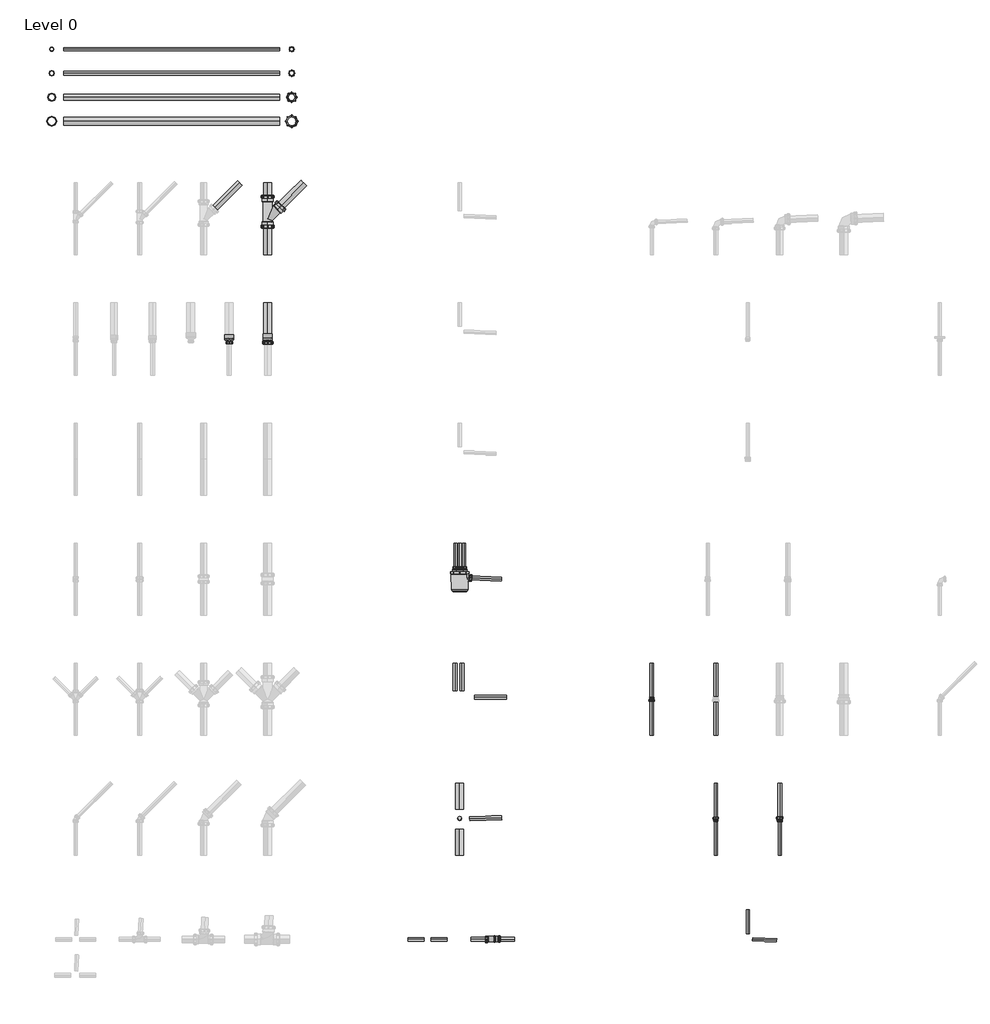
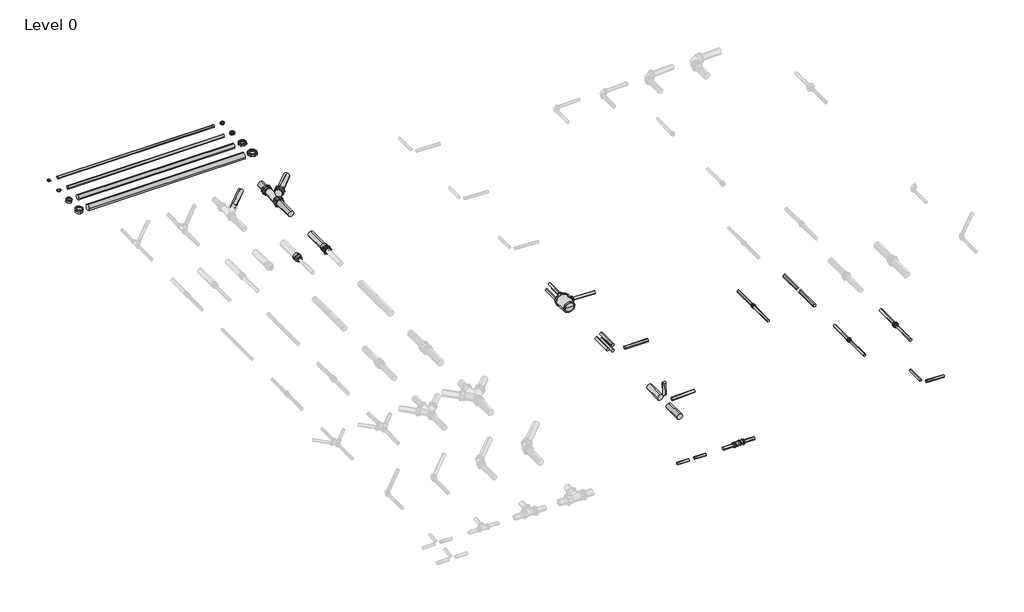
# One storey, part 3 of 5: 51 pipe fittings.
"""IFC4 building model written with IfcOpenShell, lengths in millimetres."""

from ifc_helpers import new_model, si_unit, point, frame, frame_2d, origin, place, context, project, spatial, circle_curve, trimmed, segment, composite_curve, outline, extrude, transform, mapped, element, save
from components import pipe_fitting_6652a40b, pipe_fitting_d1e91bc4, pipe_fitting_c0f0be52, pipe_fitting_eb49605e, pipe_fitting_6a20dd4a, w141_1_5inch_x_38mm_2e8cb1b8, w142_2inch_x_51mm_82494a64, w221_1_5inch_38mm_a653aa2d, w222_2inch_51mm_2c6371f4, w223_3inch_76mm_ab987528, w224_4inch_102mm_8a59da76, w231_1_5inch_38mm_eb1158d3, w232_2inch_51mm_67d13c43, w233_3inch_76mm_30b5535d, w234_4inch_102mm_b929236d, w374_4inch_102mm_46581d94, w374_4inch_102mm_cdc88c89, w451_1_5inch_38mm_e0fa0fe0, w802_2inch_51mm_31d1ba8a, w802_2inch_51mm_177d126d

model = new_model("IFC4")

# Units and contexts
model_context = context("Model", 3, world=origin())
ifc_project = project(units=[si_unit("LENGTHUNIT", "METRE", prefix="MILLI")], contexts=[model_context])

# Site, building, storey
site = spatial("IfcSite", under=ifc_project)
building = spatial("IfcBuilding", under=site)
storey = spatial("IfcBuildingStorey", under=building, Name="Level 0", Elevation=0.0)

# Pipe fittings
placement = place(None, origin())
element("IfcPipeFitting", 1, ObjectType="Vulcathene Mechanical Pipe", at=placement, inside=storey, context=model_context, shape_type="SweptSolid", body=[
    extrude(outline(composite_curve([segment(trimmed(circle_curve(frame_2d((13784.6035033, 0.0)), 20.0), [point((13764.6035033, 0.0))], [point((13784.6035033, 20.0))], False, "CARTESIAN"), True, "CONTINUOUS"), segment(trimmed(circle_curve(frame_2d((13784.6035033, 0.0)), 20.0), [point((13784.6035033, 20.0))], [point((13804.6035033, 0.0))], False, "CARTESIAN"), True, "CONTINUOUS"), segment(trimmed(circle_curve(frame_2d((13784.6035033, 0.0)), 20.0), [point((13804.6035033, 0.0))], [point((13784.6035033, -20.0))], False, "CARTESIAN"), True, "CONTINUOUS"), segment(trimmed(circle_curve(frame_2d((13784.6035033, 0.0)), 20.0), [point((13784.6035033, -20.0))], [point((13764.6035033, 0.0))], False, "CARTESIAN"), True, "CONTINUOUS")], self_intersect=False)), frame((-19807.9793828, 0.0, 0.0), z_axis=(1.0, 0.0, 0.0), x_axis=(0.0, 1.0, 0.0)), (0.0, 0.0, 1.0), 2700.0),
])
element("IfcPipeFitting", 2, ObjectType="Vulcathene Mechanical Pipe", at=placement, inside=storey, context=model_context, shape_type="SweptSolid", body=[
    extrude(outline(composite_curve([segment(trimmed(circle_curve(frame_2d((13484.6035033, 0.0)), 25.0), [point((13459.6035033, 0.0))], [point((13484.6035033, 25.0))], False, "CARTESIAN"), True, "CONTINUOUS"), segment(trimmed(circle_curve(frame_2d((13484.6035033, 0.0)), 25.0), [point((13484.6035033, 25.0))], [point((13509.6035033, 0.0))], False, "CARTESIAN"), True, "CONTINUOUS"), segment(trimmed(circle_curve(frame_2d((13484.6035033, 0.0)), 25.0), [point((13509.6035033, 0.0))], [point((13484.6035033, -25.0))], False, "CARTESIAN"), True, "CONTINUOUS"), segment(trimmed(circle_curve(frame_2d((13484.6035033, 0.0)), 25.0), [point((13484.6035033, -25.0))], [point((13459.6035033, 0.0))], False, "CARTESIAN"), True, "CONTINUOUS")], self_intersect=False)), frame((-19807.9793828, 0.0, 0.0), z_axis=(1.0, 0.0, 0.0), x_axis=(0.0, 1.0, 0.0)), (0.0, 0.0, 1.0), 2700.0),
])
element("IfcPipeFitting", 3, ObjectType="Vulcathene Mechanical Pipe", at=placement, inside=storey, context=model_context, shape_type="SweptSolid", body=[
    extrude(outline(composite_curve([segment(trimmed(circle_curve(frame_2d((13184.6035033, 0.0)), 40.0), [point((13144.6035033, 0.0))], [point((13184.6035033, 40.0))], False, "CARTESIAN"), True, "CONTINUOUS"), segment(trimmed(circle_curve(frame_2d((13184.6035033, 0.0)), 40.0), [point((13184.6035033, 40.0))], [point((13224.6035033, 0.0))], False, "CARTESIAN"), True, "CONTINUOUS"), segment(trimmed(circle_curve(frame_2d((13184.6035033, 0.0)), 40.0), [point((13224.6035033, 0.0))], [point((13184.6035033, -40.0))], False, "CARTESIAN"), True, "CONTINUOUS"), segment(trimmed(circle_curve(frame_2d((13184.6035033, 0.0)), 40.0), [point((13184.6035033, -40.0))], [point((13144.6035033, 0.0))], False, "CARTESIAN"), True, "CONTINUOUS")], self_intersect=False)), frame((-19807.9793828, 0.0, 0.0), z_axis=(1.0, 0.0, 0.0), x_axis=(0.0, 1.0, 0.0)), (0.0, 0.0, 1.0), 2700.0),
])
element("IfcPipeFitting", 4, ObjectType="Vulcathene Mechanical Pipe", at=placement, inside=storey, context=model_context, shape_type="SweptSolid", body=[
    extrude(outline(composite_curve([segment(trimmed(circle_curve(frame_2d((12884.6035033, 0.0)), 50.0), [point((12834.6035033, 0.0))], [point((12884.6035033, 50.0))], False, "CARTESIAN"), True, "CONTINUOUS"), segment(trimmed(circle_curve(frame_2d((12884.6035033, 0.0)), 50.0), [point((12884.6035033, 50.0))], [point((12934.6035033, 0.0))], False, "CARTESIAN"), True, "CONTINUOUS"), segment(trimmed(circle_curve(frame_2d((12884.6035033, 0.0)), 50.0), [point((12934.6035033, 0.0))], [point((12884.6035033, -50.0))], False, "CARTESIAN"), True, "CONTINUOUS"), segment(trimmed(circle_curve(frame_2d((12884.6035033, 0.0)), 50.0), [point((12884.6035033, -50.0))], [point((12834.6035033, 0.0))], False, "CARTESIAN"), True, "CONTINUOUS")], self_intersect=False)), frame((-19807.9793828, 0.0, 0.0), z_axis=(1.0, 0.0, 0.0), x_axis=(0.0, 1.0, 0.0)), (0.0, 0.0, 1.0), 2700.0),
])
element("IfcPipeFitting", 5, ObjectType="Vulcathene Mechanical Pipe", at=placement, inside=storey, context=model_context, shape_type="SweptSolid", body=[
    extrude(outline(composite_curve([segment(trimmed(circle_curve(frame_2d((0.0, -17257.9793828)), 50.0), [point((0.0, -17307.9793828))], [point((-50.0, -17257.9793828))], False, "CARTESIAN"), True, "CONTINUOUS"), segment(trimmed(circle_curve(frame_2d((0.0, -17257.9793828)), 50.0), [point((-50.0, -17257.9793828))], [point((0.0, -17207.9793828))], False, "CARTESIAN"), True, "CONTINUOUS"), segment(trimmed(circle_curve(frame_2d((0.0, -17257.9793828)), 50.0), [point((0.0, -17207.9793828))], [point((50.0, -17257.9793828))], False, "CARTESIAN"), True, "CONTINUOUS"), segment(trimmed(circle_curve(frame_2d((0.0, -17257.9793828)), 50.0), [point((50.0, -17257.9793828))], [point((0.0, -17307.9793828))], False, "CARTESIAN"), True, "CONTINUOUS")], self_intersect=False)), frame((0.0, 11214.6035033, 0.0), z_axis=(0.0, 1.0, 0.0), x_axis=(0.0, 0.0, 1.0)), (0.0, 0.0, 1.0), 370.5),
])
element("IfcPipeFitting", 6, ObjectType="Vulcathene Mechanical Pipe", at=placement, inside=storey, context=model_context, shape_type="SweptSolid", body=[
    extrude(outline(composite_curve([segment(trimmed(circle_curve(frame_2d((0.0, 40.0)), 40.0), [point((40.0, 40.0))], [point((0.0, 0.0))], False, "CARTESIAN"), True, "CONTINUOUS"), segment(trimmed(circle_curve(frame_2d((0.0, 40.0)), 40.0), [point((0.0, 0.0))], [point((-40.0, 40.0))], False, "CARTESIAN"), True, "CONTINUOUS"), segment(trimmed(circle_curve(frame_2d((0.0, 40.0)), 40.0), [point((-40.0, 40.0))], [point((0.0, 80.0))], False, "CARTESIAN"), True, "CONTINUOUS"), segment(trimmed(circle_curve(frame_2d((0.0, 40.0)), 40.0), [point((0.0, 80.0))], [point((40.0, 40.0))], False, "CARTESIAN"), True, "CONTINUOUS")], self_intersect=False)), frame((-17939.538997, 11783.0438891, 40.0), z_axis=(0.7071067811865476, 0.7071067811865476, 0.0), x_axis=(0.7071067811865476, -0.7071067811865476, 0.0)), (0.0, 0.0, 1.0), 468.8961031),
])
element("IfcPipeFitting", 7, ObjectType="Vulcathene Mechanical Pipe", at=placement, inside=storey, context=model_context, shape_type="SweptSolid", body=[
    extrude(outline(composite_curve([segment(trimmed(circle_curve(frame_2d((0.0, 50.0)), 50.0), [point((50.0, 50.0))], [point((0.0, 0.0))], False, "CARTESIAN"), True, "CONTINUOUS"), segment(trimmed(circle_curve(frame_2d((0.0, 50.0)), 50.0), [point((0.0, 0.0))], [point((-50.0, 50.0))], False, "CARTESIAN"), True, "CONTINUOUS"), segment(trimmed(circle_curve(frame_2d((0.0, 50.0)), 50.0), [point((-50.0, 50.0))], [point((0.0, 100.0))], False, "CARTESIAN"), True, "CONTINUOUS"), segment(trimmed(circle_curve(frame_2d((0.0, 50.0)), 50.0), [point((0.0, 100.0))], [point((50.0, 50.0))], False, "CARTESIAN"), True, "CONTINUOUS")], self_intersect=False)), frame((-17109.9112229, 11812.6716632, 50.0), z_axis=(0.707106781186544, 0.7071067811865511, 0.0), x_axis=(0.7071067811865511, -0.707106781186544, 0.0)), (0.0, 0.0, 1.0), 426.9961031),
])
element("IfcPipeFitting", 8, ObjectType="Vulcathene Mechanical Pipe", at=placement, inside=storey, context=model_context, shape_type="SweptSolid", body=[
    extrude(outline(composite_curve([segment(trimmed(circle_curve(frame_2d((0.0, -17257.9793828)), 50.0), [point((0.0, -17307.9793828))], [point((-50.0, -17257.9793828))], False, "CARTESIAN"), True, "CONTINUOUS"), segment(trimmed(circle_curve(frame_2d((0.0, -17257.9793828)), 50.0), [point((-50.0, -17257.9793828))], [point((0.0, -17207.9793828))], False, "CARTESIAN"), True, "CONTINUOUS"), segment(trimmed(circle_curve(frame_2d((0.0, -17257.9793828)), 50.0), [point((0.0, -17207.9793828))], [point((50.0, -17257.9793828))], False, "CARTESIAN"), True, "CONTINUOUS"), segment(trimmed(circle_curve(frame_2d((0.0, -17257.9793828)), 50.0), [point((50.0, -17257.9793828))], [point((0.0, -17307.9793828))], False, "CARTESIAN"), True, "CONTINUOUS")], self_intersect=False)), frame((0.0, 11924.5035033, 0.0), z_axis=(0.0, 1.0, 0.0), x_axis=(0.0, 0.0, 1.0)), (0.0, 0.0, 1.0), 190.1),
])
element("IfcPipeFitting", 9, ObjectType="Vulcathene Mechanical Pipe", at=placement, inside=storey, context=model_context, shape_type="SweptSolid", body=[
    extrude(outline(composite_curve([segment(trimmed(circle_curve(frame_2d((0.0, -17257.9793828)), 50.0), [point((0.0, -17207.9793828))], [point((50.0, -17257.9793828))], False, "CARTESIAN"), True, "CONTINUOUS"), segment(trimmed(circle_curve(frame_2d((0.0, -17257.9793828)), 50.0), [point((50.0, -17257.9793828))], [point((0.0, -17307.9793828))], False, "CARTESIAN"), True, "CONTINUOUS"), segment(trimmed(circle_curve(frame_2d((0.0, -17257.9793828)), 50.0), [point((0.0, -17307.9793828))], [point((-50.0, -17257.9793828))], False, "CARTESIAN"), True, "CONTINUOUS"), segment(trimmed(circle_curve(frame_2d((0.0, -17257.9793828)), 50.0), [point((-50.0, -17257.9793828))], [point((0.0, -17207.9793828))], False, "CARTESIAN"), True, "CONTINUOUS")], self_intersect=False)), frame((0.0, 10158.4535033, 0.0), z_axis=(0.0, 1.0, 0.0), x_axis=(0.0, 0.0, 1.0)), (0.0, 0.0, 1.0), 456.15),
])
element("IfcPipeFitting", 10, ObjectType="Vulcathene Mechanical Pipe", at=placement, inside=storey, context=model_context, shape_type="SweptSolid", body=[
    extrude(outline(composite_curve([segment(trimmed(circle_curve(frame_2d((1e-07, 25.0)), 25.0), [point((-24.9999423, 24.9463195))], [point((-0.0536805, 49.9999424))], False, "CARTESIAN"), True, "CONTINUOUS"), segment(trimmed(circle_curve(frame_2d((1e-07, 25.0)), 25.0), [point((-0.0536805, 49.9999424))], [point((24.9999424, 25.0536806))], False, "CARTESIAN"), True, "CONTINUOUS"), segment(trimmed(circle_curve(frame_2d((1e-07, 25.0)), 25.0), [point((24.9999424, 25.0536806))], [point((0.0536806, 5.77e-05))], False, "CARTESIAN"), True, "CONTINUOUS"), segment(trimmed(circle_curve(frame_2d((1e-07, 25.0)), 25.0), [point((0.0536806, 5.77e-05))], [point((-24.9999423, 24.9463195))], False, "CARTESIAN"), True, "CONTINUOUS")], self_intersect=False)), frame((-14737.6431941, 7182.0252559, -25.0374423), z_axis=(0.9990482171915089, -0.043619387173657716, 9.374999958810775e-05), x_axis=(0.04361948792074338, 0.9990459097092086, -0.002147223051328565)), (0.0, 0.0, 1.0), 400.0000018),
])
element("IfcPipeFitting", 11, ObjectType="Vulcathene Mechanical Pipe", at=placement, inside=storey, context=model_context, shape_type="SweptSolid", body=[
    extrude(outline(composite_curve([segment(trimmed(circle_curve(frame_2d((-30.2, -14910.2223653)), 20.0), [point((-30.2, -14890.2223653))], [point((-10.2, -14910.2223653))], False, "CARTESIAN"), True, "CONTINUOUS"), segment(trimmed(circle_curve(frame_2d((-30.2, -14910.2223653)), 20.0), [point((-10.2, -14910.2223653))], [point((-30.2, -14930.2223653))], False, "CARTESIAN"), True, "CONTINUOUS"), segment(trimmed(circle_curve(frame_2d((-30.2, -14910.2223653)), 20.0), [point((-30.2, -14930.2223653))], [point((-50.2, -14910.2223653))], False, "CARTESIAN"), True, "CONTINUOUS"), segment(trimmed(circle_curve(frame_2d((-30.2, -14910.2223653)), 20.0), [point((-50.2, -14910.2223653))], [point((-30.2, -14890.2223653))], False, "CARTESIAN"), True, "CONTINUOUS")], self_intersect=False)), frame((0.0, 7289.9325163, 0.0), z_axis=(0.0, 1.0, 0.0), x_axis=(0.0, 0.0, 1.0)), (0.0, 0.0, 1.0), 324.7096599),
])
element("IfcPipeFitting", 12, ObjectType="Vulcathene Mechanical Pipe", at=placement, inside=storey, context=model_context, shape_type="SweptSolid", body=[
    extrude(outline(composite_curve([segment(trimmed(circle_curve(frame_2d((0.0, 20.0)), 20.0), [point((0.0, 40.0))], [point((20.0, 20.0))], False, "CARTESIAN"), True, "CONTINUOUS"), segment(trimmed(circle_curve(frame_2d((0.0, 20.0)), 20.0), [point((20.0, 20.0))], [point((0.0, 0.0))], False, "CARTESIAN"), True, "CONTINUOUS"), segment(trimmed(circle_curve(frame_2d((0.0, 20.0)), 20.0), [point((0.0, 0.0))], [point((-20.0, 19.9999999))], False, "CARTESIAN"), True, "CONTINUOUS"), segment(trimmed(circle_curve(frame_2d((0.0, 20.0)), 20.0), [point((-20.0, 19.9999999))], [point((0.0, 40.0))], False, "CARTESIAN"), True, "CONTINUOUS")], self_intersect=False)), frame((-14877.9793828, 7289.9318772, 60.2875), z_axis=(-3.195355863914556e-05, 0.9999999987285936, 3.901003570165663e-05), x_axis=(1.2465122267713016e-09, -3.9010035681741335e-05, 0.9999999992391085)), (0.0, 0.0, 1.0), 324.7079906),
])
element("IfcPipeFitting", 13, ObjectType="Vulcathene Mechanical Pipe", at=placement, inside=storey, context=model_context, shape_type="SweptSolid", body=[
    extrude(outline(composite_curve([segment(trimmed(circle_curve(frame_2d((-30.2, -14805.7364004)), 20.0), [point((-30.2, -14785.7364004))], [point((-10.2, -14805.7364004))], False, "CARTESIAN"), True, "CONTINUOUS"), segment(trimmed(circle_curve(frame_2d((-30.2, -14805.7364004)), 20.0), [point((-10.2, -14805.7364004))], [point((-30.2, -14825.7364004))], False, "CARTESIAN"), True, "CONTINUOUS"), segment(trimmed(circle_curve(frame_2d((-30.2, -14805.7364004)), 20.0), [point((-30.2, -14825.7364004))], [point((-50.2, -14805.7364004))], False, "CARTESIAN"), True, "CONTINUOUS"), segment(trimmed(circle_curve(frame_2d((-30.2, -14805.7364004)), 20.0), [point((-50.2, -14805.7364004))], [point((-30.2, -14785.7364004))], False, "CARTESIAN"), True, "CONTINUOUS")], self_intersect=False)), frame((0.0, 7289.9325163, 0.0), z_axis=(0.0, 1.0, 0.0), x_axis=(0.0, 0.0, 1.0)), (0.0, 0.0, 1.0), 324.7096599),
])
element("IfcPipeFitting", 14, ObjectType="Vulcathene Mechanical Pipe", at=placement, inside=storey, context=model_context, shape_type="SweptSolid", body=[
    extrude(outline(composite_curve([segment(trimmed(circle_curve(frame_2d((0.0, -14918.3042383)), 25.0), [point((0.0, -14893.3042383))], [point((25.0, -14918.3042383))], False, "CARTESIAN"), True, "CONTINUOUS"), segment(trimmed(circle_curve(frame_2d((0.0, -14918.3042383)), 25.0), [point((25.0, -14918.3042383))], [point((0.0, -14943.3042383))], False, "CARTESIAN"), True, "CONTINUOUS"), segment(trimmed(circle_curve(frame_2d((0.0, -14918.3042383)), 25.0), [point((0.0, -14943.3042383))], [point((-25.0, -14918.3042383))], False, "CARTESIAN"), True, "CONTINUOUS"), segment(trimmed(circle_curve(frame_2d((0.0, -14918.3042383)), 25.0), [point((-25.0, -14918.3042383))], [point((0.0, -14893.3042383))], False, "CARTESIAN"), True, "CONTINUOUS")], self_intersect=False)), frame((0.0, 5769.877371, 0.0), z_axis=(0.0, 1.0, 0.0), x_axis=(0.0, 0.0, 1.0)), (0.0, 0.0, 1.0), 344.7261322),
])
element("IfcPipeFitting", 15, ObjectType="Vulcathene Mechanical Pipe", at=placement, inside=storey, context=model_context, shape_type="SweptSolid", body=[
    extrude(outline(composite_curve([segment(trimmed(circle_curve(frame_2d((52.0375, -14827.7025971)), 25.0), [point((52.0375, -14802.7025971))], [point((77.0375, -14827.7025971))], False, "CARTESIAN"), True, "CONTINUOUS"), segment(trimmed(circle_curve(frame_2d((52.0375, -14827.7025971)), 25.0), [point((77.0375, -14827.7025971))], [point((52.0375, -14852.7025971))], False, "CARTESIAN"), True, "CONTINUOUS"), segment(trimmed(circle_curve(frame_2d((52.0375, -14827.7025971)), 25.0), [point((52.0375, -14852.7025971))], [point((27.0375, -14827.7025971))], False, "CARTESIAN"), True, "CONTINUOUS"), segment(trimmed(circle_curve(frame_2d((52.0375, -14827.7025971)), 25.0), [point((27.0375, -14827.7025971))], [point((52.0375, -14802.7025971))], False, "CARTESIAN"), True, "CONTINUOUS")], self_intersect=False)), frame((0.0, 5769.877371, 0.0), z_axis=(0.0, 1.0, 0.0), x_axis=(0.0, 0.0, 1.0)), (0.0, 0.0, 1.0), 344.7261322),
])
element("IfcPipeFitting", 16, ObjectType="Vulcathene Mechanical Pipe", at=placement, inside=storey, context=model_context, shape_type="SweptSolid", body=[
    extrude(outline(composite_curve([segment(trimmed(circle_curve(frame_2d((0.0, -25.0)), 25.0), [point((0.0, -50.0))], [point((-25.0000001, -25.0))], False, "CARTESIAN"), True, "CONTINUOUS"), segment(trimmed(circle_curve(frame_2d((0.0, -25.0)), 25.0), [point((-25.0000001, -25.0))], [point((0.0, 0.0))], False, "CARTESIAN"), True, "CONTINUOUS"), segment(trimmed(circle_curve(frame_2d((0.0, -25.0)), 25.0), [point((0.0, 0.0))], [point((25.0, -25.0))], False, "CARTESIAN"), True, "CONTINUOUS"), segment(trimmed(circle_curve(frame_2d((0.0, -25.0)), 25.0), [point((25.0, -25.0))], [point((0.0, -50.0))], False, "CARTESIAN"), True, "CONTINUOUS")], self_intersect=False)), frame((-14852.7025971, 6114.5996207, -52.0632255), z_axis=(0.0, -0.9999999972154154, 7.46268656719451e-05), x_axis=(0.0, 7.46268656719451e-05, 0.9999999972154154)), (0.0, 0.0, 1.0), 344.7222507),
])
element("IfcPipeFitting", 17, ObjectType="Vulcathene Mechanical Pipe", at=placement, inside=storey, context=model_context, shape_type="SweptSolid", body=[
    extrude(outline(composite_curve([segment(trimmed(circle_curve(frame_2d((0.0, -14857.9793828)), 50.0), [point((0.0, -14807.9793828))], [point((50.0, -14857.9793828))], False, "CARTESIAN"), True, "CONTINUOUS"), segment(trimmed(circle_curve(frame_2d((0.0, -14857.9793828)), 50.0), [point((50.0, -14857.9793828))], [point((0.0, -14907.9793828))], False, "CARTESIAN"), True, "CONTINUOUS"), segment(trimmed(circle_curve(frame_2d((0.0, -14857.9793828)), 50.0), [point((0.0, -14907.9793828))], [point((-50.0, -14857.9793828))], False, "CARTESIAN"), True, "CONTINUOUS"), segment(trimmed(circle_curve(frame_2d((0.0, -14857.9793828)), 50.0), [point((-50.0, -14857.9793828))], [point((0.0, -14807.9793828))], False, "CARTESIAN"), True, "CONTINUOUS")], self_intersect=False)), frame((0.0, 4289.602162, 0.0), z_axis=(0.0, 1.0, 0.0), x_axis=(0.0, 0.0, 1.0)), (0.0, 0.0, 1.0), 325.0013412),
])
element("IfcPipeFitting", 18, ObjectType="Vulcathene Mechanical Pipe", at=placement, inside=storey, context=model_context, shape_type="SweptSolid", body=[
    extrude(outline(composite_curve([segment(trimmed(circle_curve(frame_2d((0.0, 25.0)), 25.0), [point((25.0, 25.0))], [point((0.0, 0.0))], False, "CARTESIAN"), True, "CONTINUOUS"), segment(trimmed(circle_curve(frame_2d((0.0, 25.0)), 25.0), [point((0.0, 0.0))], [point((-25.0, 25.0))], False, "CARTESIAN"), True, "CONTINUOUS"), segment(trimmed(circle_curve(frame_2d((0.0, 25.0)), 25.0), [point((-25.0, 25.0))], [point((0.0, 50.0))], False, "CARTESIAN"), True, "CONTINUOUS"), segment(trimmed(circle_curve(frame_2d((0.0, 25.0)), 25.0), [point((0.0, 50.0))], [point((25.0, 25.0))], False, "CARTESIAN"), True, "CONTINUOUS")], self_intersect=False)), frame((-14733.2478748, 4170.0480573, 24.969281), z_axis=(0.9990482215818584, 0.0436193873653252, 0.0), x_axis=(0.0436193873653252, -0.9990482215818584, 0.0)), (0.0, 0.0, 1.0), 400.0),
])
element("IfcPipeFitting", 19, ObjectType="Vulcathene Mechanical Pipe", at=placement, inside=storey, context=model_context, shape_type="SweptSolid", body=[
    extrude(outline(composite_curve([segment(trimmed(circle_curve(frame_2d((0.0, -14857.9793828)), 50.0), [point((0.0, -14907.9793828))], [point((-50.0, -14857.9793828))], False, "CARTESIAN"), True, "CONTINUOUS"), segment(trimmed(circle_curve(frame_2d((0.0, -14857.9793828)), 50.0), [point((-50.0, -14857.9793828))], [point((0.0, -14807.9793828))], False, "CARTESIAN"), True, "CONTINUOUS"), segment(trimmed(circle_curve(frame_2d((0.0, -14857.9793828)), 50.0), [point((0.0, -14807.9793828))], [point((50.0, -14857.9793828))], False, "CARTESIAN"), True, "CONTINUOUS"), segment(trimmed(circle_curve(frame_2d((0.0, -14857.9793828)), 50.0), [point((50.0, -14857.9793828))], [point((0.0, -14907.9793828))], False, "CARTESIAN"), True, "CONTINUOUS")], self_intersect=False)), frame((0.0, 3714.6035033, 0.0), z_axis=(0.0, 1.0, 0.0), x_axis=(0.0, 0.0, 1.0)), (0.0, 0.0, 1.0), 324.9986588),
])
element("IfcPipeFitting", 20, ObjectType="Vulcathene Mechanical Pipe", at=placement, inside=storey, context=model_context, shape_type="SweptSolid", body=[
    extrude(outline(composite_curve([segment(trimmed(circle_curve(frame_2d((5687.8785033, 0.0)), 25.0), [point((5662.8785033, 0.0))], [point((5687.8785033, 25.0))], False, "CARTESIAN"), True, "CONTINUOUS"), segment(trimmed(circle_curve(frame_2d((5687.8785033, 0.0)), 25.0), [point((5687.8785033, 25.0))], [point((5712.8785033, 0.0))], False, "CARTESIAN"), True, "CONTINUOUS"), segment(trimmed(circle_curve(frame_2d((5687.8785033, 0.0)), 25.0), [point((5712.8785033, 0.0))], [point((5687.8785033, -25.0))], False, "CARTESIAN"), True, "CONTINUOUS"), segment(trimmed(circle_curve(frame_2d((5687.8785033, 0.0)), 25.0), [point((5687.8785033, -25.0))], [point((5662.8785033, 0.0))], False, "CARTESIAN"), True, "CONTINUOUS")], self_intersect=False)), frame((-14673.8363828, 0.0, 0.0), z_axis=(1.0, 0.0, 0.0), x_axis=(0.0, 1.0, 0.0)), (0.0, 0.0, 1.0), 400.0),
])
element("IfcPipeFitting", 21, ObjectType="Vulcathene Mechanical Pipe", at=placement, inside=storey, context=model_context, shape_type="SweptSolid", body=[
    extrude(outline(composite_curve([segment(trimmed(circle_curve(frame_2d((0.0, -12457.9793828)), 20.0), [point((0.0, -12477.9793828))], [point((-20.0, -12457.9793828))], False, "CARTESIAN"), True, "CONTINUOUS"), segment(trimmed(circle_curve(frame_2d((0.0, -12457.9793828)), 20.0), [point((-20.0, -12457.9793828))], [point((0.0, -12437.9793828))], False, "CARTESIAN"), True, "CONTINUOUS"), segment(trimmed(circle_curve(frame_2d((0.0, -12457.9793828)), 20.0), [point((0.0, -12437.9793828))], [point((20.0, -12457.9793828))], False, "CARTESIAN"), True, "CONTINUOUS"), segment(trimmed(circle_curve(frame_2d((0.0, -12457.9793828)), 20.0), [point((20.0, -12457.9793828))], [point((0.0, -12477.9793828))], False, "CARTESIAN"), True, "CONTINUOUS")], self_intersect=False)), frame((0.0, 5214.6035033, 0.0), z_axis=(0.0, 1.0, 0.0), x_axis=(0.0, 0.0, 1.0)), (0.0, 0.0, 1.0), 453.85),
])
element("IfcPipeFitting", 22, ObjectType="Vulcathene Mechanical Pipe", at=placement, inside=storey, context=model_context, shape_type="SweptSolid", body=[
    extrude(outline(composite_curve([segment(trimmed(circle_curve(frame_2d((0.0, -11657.9793828)), 25.0), [point((0.0, -11682.9793828))], [point((-25.0, -11657.9793828))], False, "CARTESIAN"), True, "CONTINUOUS"), segment(trimmed(circle_curve(frame_2d((0.0, -11657.9793828)), 25.0), [point((-25.0, -11657.9793828))], [point((0.0, -11632.9793828))], False, "CARTESIAN"), True, "CONTINUOUS"), segment(trimmed(circle_curve(frame_2d((0.0, -11657.9793828)), 25.0), [point((0.0, -11632.9793828))], [point((25.0, -11657.9793828))], False, "CARTESIAN"), True, "CONTINUOUS"), segment(trimmed(circle_curve(frame_2d((0.0, -11657.9793828)), 25.0), [point((25.0, -11657.9793828))], [point((0.0, -11682.9793828))], False, "CARTESIAN"), True, "CONTINUOUS")], self_intersect=False)), frame((0.0, 5214.6035033, 0.0), z_axis=(0.0, 1.0, 0.0), x_axis=(0.0, 0.0, 1.0)), (0.0, 0.0, 1.0), 451.0),
])
element("IfcPipeFitting", 23, ObjectType="Vulcathene Mechanical Pipe", at=placement, inside=storey, context=model_context, shape_type="SweptSolid", body=[
    extrude(outline(composite_curve([segment(trimmed(circle_curve(frame_2d((0.0, -12457.9793828)), 20.0), [point((0.0, -12477.9793828))], [point((-20.0, -12457.9793828))], False, "CARTESIAN"), True, "CONTINUOUS"), segment(trimmed(circle_curve(frame_2d((0.0, -12457.9793828)), 20.0), [point((-20.0, -12457.9793828))], [point((0.0, -12437.9793828))], False, "CARTESIAN"), True, "CONTINUOUS"), segment(trimmed(circle_curve(frame_2d((0.0, -12457.9793828)), 20.0), [point((0.0, -12437.9793828))], [point((20.0, -12457.9793828))], False, "CARTESIAN"), True, "CONTINUOUS"), segment(trimmed(circle_curve(frame_2d((0.0, -12457.9793828)), 20.0), [point((20.0, -12457.9793828))], [point((0.0, -12477.9793828))], False, "CARTESIAN"), True, "CONTINUOUS")], self_intersect=False)), frame((0.0, 5691.9535033, 0.0), z_axis=(0.0, 1.0, 0.0), x_axis=(0.0, 0.0, 1.0)), (0.0, 0.0, 1.0), 422.65),
])
element("IfcPipeFitting", 24, ObjectType="Vulcathene Mechanical Pipe", at=placement, inside=storey, context=model_context, shape_type="SweptSolid", body=[
    extrude(outline(composite_curve([segment(trimmed(circle_curve(frame_2d((0.0, -11657.9793828)), 25.0), [point((0.0, -11682.9793828))], [point((-25.0, -11657.9793828))], False, "CARTESIAN"), True, "CONTINUOUS"), segment(trimmed(circle_curve(frame_2d((0.0, -11657.9793828)), 25.0), [point((-25.0, -11657.9793828))], [point((0.0, -11632.9793828))], False, "CARTESIAN"), True, "CONTINUOUS"), segment(trimmed(circle_curve(frame_2d((0.0, -11657.9793828)), 25.0), [point((0.0, -11632.9793828))], [point((25.0, -11657.9793828))], False, "CARTESIAN"), True, "CONTINUOUS"), segment(trimmed(circle_curve(frame_2d((0.0, -11657.9793828)), 25.0), [point((25.0, -11657.9793828))], [point((0.0, -11682.9793828))], False, "CARTESIAN"), True, "CONTINUOUS")], self_intersect=False)), frame((0.0, 5695.1035033, 0.0), z_axis=(0.0, 1.0, 0.0), x_axis=(0.0, 0.0, 1.0)), (0.0, 0.0, 1.0), 419.5),
])
element("IfcPipeFitting", 25, ObjectType="Vulcathene Mechanical Pipe", at=placement, inside=storey, context=model_context, shape_type="SweptSolid", body=[
    extrude(outline(composite_curve([segment(trimmed(circle_curve(frame_2d((0.0, 25.0)), 25.0), [point((25.0, 25.0))], [point((0.0, 0.0))], False, "CARTESIAN"), True, "CONTINUOUS"), segment(trimmed(circle_curve(frame_2d((0.0, 25.0)), 25.0), [point((0.0, 0.0))], [point((-25.0, 25.0))], False, "CARTESIAN"), True, "CONTINUOUS"), segment(trimmed(circle_curve(frame_2d((0.0, 25.0)), 25.0), [point((-25.0, 25.0))], [point((0.0, 49.9999999))], False, "CARTESIAN"), True, "CONTINUOUS"), segment(trimmed(circle_curve(frame_2d((0.0, 25.0)), 25.0), [point((0.0, 49.9999999))], [point((25.0, 25.0))], False, "CARTESIAN"), True, "CONTINUOUS")], self_intersect=False)), frame((-14858.0101019, 4145.0718518, 125.8219927), z_axis=(0.0, 0.04361938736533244, 0.9990482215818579), x_axis=(1.0, 0.0, 0.0)), (0.0, 0.0, 1.0), 220.0),
])
element("IfcPipeFitting", 26, ObjectType="Vulcathene Mechanical Pipe", at=placement, inside=storey, context=model_context, shape_type="SweptSolid", body=[
    extrude(outline(composite_curve([segment(trimmed(circle_curve(frame_2d((0.0, -11657.9793828)), 20.0), [point((0.0, -11677.9793828))], [point((-20.0, -11657.9793828))], False, "CARTESIAN"), True, "CONTINUOUS"), segment(trimmed(circle_curve(frame_2d((0.0, -11657.9793828)), 20.0), [point((-20.0, -11657.9793828))], [point((0.0, -11637.9793828))], False, "CARTESIAN"), True, "CONTINUOUS"), segment(trimmed(circle_curve(frame_2d((0.0, -11657.9793828)), 20.0), [point((0.0, -11637.9793828))], [point((20.0, -11657.9793828))], False, "CARTESIAN"), True, "CONTINUOUS"), segment(trimmed(circle_curve(frame_2d((0.0, -11657.9793828)), 20.0), [point((20.0, -11657.9793828))], [point((0.0, -11677.9793828))], False, "CARTESIAN"), True, "CONTINUOUS")], self_intersect=False)), frame((0.0, 3714.6035033, 0.0), z_axis=(0.0, 1.0, 0.0), x_axis=(0.0, 0.0, 1.0)), (0.0, 0.0, 1.0), 441.1986588),
])
element("IfcPipeFitting", 27, ObjectType="Vulcathene Mechanical Pipe", at=placement, inside=storey, context=model_context, shape_type="SweptSolid", body=[
    extrude(outline(composite_curve([segment(trimmed(circle_curve(frame_2d((0.0, -10857.9793828)), 20.0), [point((0.0, -10877.9793828))], [point((-20.0, -10857.9793828))], False, "CARTESIAN"), True, "CONTINUOUS"), segment(trimmed(circle_curve(frame_2d((0.0, -10857.9793828)), 20.0), [point((-20.0, -10857.9793828))], [point((0.0, -10837.9793828))], False, "CARTESIAN"), True, "CONTINUOUS"), segment(trimmed(circle_curve(frame_2d((0.0, -10857.9793828)), 20.0), [point((0.0, -10837.9793828))], [point((20.0, -10857.9793828))], False, "CARTESIAN"), True, "CONTINUOUS"), segment(trimmed(circle_curve(frame_2d((0.0, -10857.9793828)), 20.0), [point((20.0, -10857.9793828))], [point((0.0, -10877.9793828))], False, "CARTESIAN"), True, "CONTINUOUS")], self_intersect=False)), frame((0.0, 3714.6035033, 0.0), z_axis=(0.0, 1.0, 0.0), x_axis=(0.0, 0.0, 1.0)), (0.0, 0.0, 1.0), 439.6986588),
])
element("IfcPipeFitting", 28, ObjectType="Vulcathene Mechanical Pipe", at=placement, inside=storey, context=model_context, shape_type="SweptSolid", body=[
    extrude(outline(composite_curve([segment(trimmed(circle_curve(frame_2d((0.0, -11657.9793828)), 20.0), [point((0.0, -11637.9793828))], [point((20.0, -11657.9793828))], False, "CARTESIAN"), True, "CONTINUOUS"), segment(trimmed(circle_curve(frame_2d((0.0, -11657.9793828)), 20.0), [point((20.0, -11657.9793828))], [point((0.0, -11677.9793828))], False, "CARTESIAN"), True, "CONTINUOUS"), segment(trimmed(circle_curve(frame_2d((0.0, -11657.9793828)), 20.0), [point((0.0, -11677.9793828))], [point((-20.0, -11657.9793828))], False, "CARTESIAN"), True, "CONTINUOUS"), segment(trimmed(circle_curve(frame_2d((0.0, -11657.9793828)), 20.0), [point((-20.0, -11657.9793828))], [point((0.0, -11637.9793828))], False, "CARTESIAN"), True, "CONTINUOUS")], self_intersect=False)), frame((0.0, 4170.902162, 0.0), z_axis=(0.0, 1.0, 0.0), x_axis=(0.0, 0.0, 1.0)), (0.0, 0.0, 1.0), 443.7013412),
])
element("IfcPipeFitting", 29, ObjectType="Vulcathene Mechanical Pipe", at=placement, inside=storey, context=model_context, shape_type="SweptSolid", body=[
    extrude(outline(composite_curve([segment(trimmed(circle_curve(frame_2d((0.0, -10857.9793828)), 25.0), [point((0.0, -10832.9793828))], [point((25.0, -10857.9793828))], False, "CARTESIAN"), True, "CONTINUOUS"), segment(trimmed(circle_curve(frame_2d((0.0, -10857.9793828)), 25.0), [point((25.0, -10857.9793828))], [point((0.0, -10882.9793828))], False, "CARTESIAN"), True, "CONTINUOUS"), segment(trimmed(circle_curve(frame_2d((0.0, -10857.9793828)), 25.0), [point((0.0, -10882.9793828))], [point((-25.0, -10857.9793828))], False, "CARTESIAN"), True, "CONTINUOUS"), segment(trimmed(circle_curve(frame_2d((0.0, -10857.9793828)), 25.0), [point((-25.0, -10857.9793828))], [point((0.0, -10832.9793828))], False, "CARTESIAN"), True, "CONTINUOUS")], self_intersect=False)), frame((0.0, 4170.502162, 0.0), z_axis=(0.0, 1.0, 0.0), x_axis=(0.0, 0.0, 1.0)), (0.0, 0.0, 1.0), 444.1013412),
])
element("IfcPipeFitting", 30, ObjectType="Vulcathene Mechanical Pipe", at=placement, inside=storey, context=model_context, shape_type="SweptSolid", body=[
    extrude(outline(composite_curve([segment(trimmed(circle_curve(frame_2d((2664.602162, 0.0)), 20.0), [point((2684.602162, 0.0))], [point((2664.602162, -20.0))], False, "CARTESIAN"), True, "CONTINUOUS"), segment(trimmed(circle_curve(frame_2d((2664.602162, 0.0)), 20.0), [point((2664.602162, -20.0))], [point((2644.602162, 0.0))], False, "CARTESIAN"), True, "CONTINUOUS"), segment(trimmed(circle_curve(frame_2d((2664.602162, 0.0)), 20.0), [point((2644.602162, 0.0))], [point((2664.602162, 20.0))], False, "CARTESIAN"), True, "CONTINUOUS"), segment(trimmed(circle_curve(frame_2d((2664.602162, 0.0)), 20.0), [point((2664.602162, 20.0))], [point((2684.602162, 0.0))], False, "CARTESIAN"), True, "CONTINUOUS")], self_intersect=False)), frame((-15503.7793828, 0.0, 0.0), z_axis=(1.0, 0.0, 0.0), x_axis=(0.0, 1.0, 0.0)), (0.0, 0.0, 1.0), 200.0),
])
element("IfcPipeFitting", 31, ObjectType="Vulcathene Mechanical Pipe", at=placement, inside=storey, context=model_context, shape_type="SweptSolid", body=[
    extrude(outline(composite_curve([segment(trimmed(circle_curve(frame_2d((2664.602162, 0.0)), 20.0), [point((2644.602162, 0.0))], [point((2664.602162, 20.0))], False, "CARTESIAN"), True, "CONTINUOUS"), segment(trimmed(circle_curve(frame_2d((2664.602162, 0.0)), 20.0), [point((2664.602162, 20.0))], [point((2684.602162, 0.0))], False, "CARTESIAN"), True, "CONTINUOUS"), segment(trimmed(circle_curve(frame_2d((2664.602162, 0.0)), 20.0), [point((2684.602162, 0.0))], [point((2664.602162, -20.0))], False, "CARTESIAN"), True, "CONTINUOUS"), segment(trimmed(circle_curve(frame_2d((2664.602162, 0.0)), 20.0), [point((2664.602162, -20.0))], [point((2644.602162, 0.0))], False, "CARTESIAN"), True, "CONTINUOUS")], self_intersect=False)), frame((-15214.7793828, 0.0, 0.0), z_axis=(1.0, 0.0, 0.0), x_axis=(0.0, 1.0, 0.0)), (0.0, 0.0, 1.0), 200.0),
])
element("IfcPipeFitting", 32, ObjectType="Vulcathene Mechanical Pipe", at=placement, inside=storey, context=model_context, shape_type="SweptSolid", body=[
    extrude(outline(composite_curve([segment(trimmed(circle_curve(frame_2d((2664.602162, 0.0)), 25.0), [point((2689.602162, 0.0))], [point((2664.602162, -25.0))], False, "CARTESIAN"), True, "CONTINUOUS"), segment(trimmed(circle_curve(frame_2d((2664.602162, 0.0)), 25.0), [point((2664.602162, -25.0))], [point((2639.602162, 0.0))], False, "CARTESIAN"), True, "CONTINUOUS"), segment(trimmed(circle_curve(frame_2d((2664.602162, 0.0)), 25.0), [point((2639.602162, 0.0))], [point((2664.602162, 25.0))], False, "CARTESIAN"), True, "CONTINUOUS"), segment(trimmed(circle_curve(frame_2d((2664.602162, 0.0)), 25.0), [point((2664.602162, 25.0))], [point((2689.602162, 0.0))], False, "CARTESIAN"), True, "CONTINUOUS")], self_intersect=False)), frame((-14714.3826963, 0.0, 0.0), z_axis=(1.0, 0.0, 0.0), x_axis=(0.0, 1.0, 0.0)), (0.0, 0.0, 1.0), 200.0),
])
element("IfcPipeFitting", 33, ObjectType="Vulcathene Mechanical Pipe", at=placement, inside=storey, context=model_context, shape_type="SweptSolid", body=[
    extrude(outline(composite_curve([segment(trimmed(circle_curve(frame_2d((2669.696162, 0.0)), 25.0), [point((2644.696162, 0.0))], [point((2669.696162, 25.0))], False, "CARTESIAN"), True, "CONTINUOUS"), segment(trimmed(circle_curve(frame_2d((2669.696162, 0.0)), 25.0), [point((2669.696162, 25.0))], [point((2694.696162, 0.0))], False, "CARTESIAN"), True, "CONTINUOUS"), segment(trimmed(circle_curve(frame_2d((2669.696162, 0.0)), 25.0), [point((2694.696162, 0.0))], [point((2669.696162, -25.0))], False, "CARTESIAN"), True, "CONTINUOUS"), segment(trimmed(circle_curve(frame_2d((2669.696162, 0.0)), 25.0), [point((2669.696162, -25.0))], [point((2644.696162, 0.0))], False, "CARTESIAN"), True, "CONTINUOUS")], self_intersect=False)), frame((-14373.1826963, 0.0, 0.0), z_axis=(1.0, 0.0, 0.0), x_axis=(0.0, 1.0, 0.0)), (0.0, 0.0, 1.0), 200.0),
])
element("IfcPipeFitting", 34, ObjectType="Vulcathene Mechanical Pipe", at=placement, inside=storey, context=model_context, shape_type="SweptSolid", body=[
    extrude(outline(composite_curve([segment(trimmed(circle_curve(frame_2d((0.0, -11257.9793828)), 20.0), [point((0.0, -11237.9793828))], [point((20.0, -11257.9793828))], False, "CARTESIAN"), True, "CONTINUOUS"), segment(trimmed(circle_curve(frame_2d((0.0, -11257.9793828)), 20.0), [point((20.0, -11257.9793828))], [point((0.0, -11277.9793828))], False, "CARTESIAN"), True, "CONTINUOUS"), segment(trimmed(circle_curve(frame_2d((0.0, -11257.9793828)), 20.0), [point((0.0, -11277.9793828))], [point((-20.0, -11257.9793828))], False, "CARTESIAN"), True, "CONTINUOUS"), segment(trimmed(circle_curve(frame_2d((0.0, -11257.9793828)), 20.0), [point((-20.0, -11257.9793828))], [point((0.0, -11237.9793828))], False, "CARTESIAN"), True, "CONTINUOUS")], self_intersect=False)), frame((0.0, 2732.5216224, 0.0), z_axis=(0.0, 1.0, 0.0), x_axis=(0.0, 0.0, 1.0)), (0.0, 0.0, 1.0), 300.0),
])
element("IfcPipeFitting", 35, ObjectType="Vulcathene Mechanical Pipe", at=placement, inside=storey, context=model_context, shape_type="SweptSolid", body=[
    extrude(outline(composite_curve([segment(trimmed(circle_curve(frame_2d((0.0, -20.0)), 20.0), [point((-20.0, -20.0))], [point((0.0, 0.0))], False, "CARTESIAN"), True, "CONTINUOUS"), segment(trimmed(circle_curve(frame_2d((0.0, -20.0)), 20.0), [point((0.0, 0.0))], [point((20.0, -20.0))], False, "CARTESIAN"), True, "CONTINUOUS"), segment(trimmed(circle_curve(frame_2d((0.0, -20.0)), 20.0), [point((20.0, -20.0))], [point((0.0, -40.0))], False, "CARTESIAN"), True, "CONTINUOUS"), segment(trimmed(circle_curve(frame_2d((0.0, -20.0)), 20.0), [point((0.0, -40.0))], [point((-20.0, -20.0))], False, "CARTESIAN"), True, "CONTINUOUS")], self_intersect=False)), frame((-10897.8822821, 2653.9739831, -20.0), z_axis=(-0.9990482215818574, 0.043619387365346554, 0.0), x_axis=(0.043619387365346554, 0.9990482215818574, 0.0)), (0.0, 0.0, 1.0), 300.0),
])
pipe_fitting_shape = pipe_fitting_6652a40b(model_context)
element("IfcPipeFitting", 36, ObjectType="Durapipe_PipeFitting_VulcatheneMechanical_ReducingCoupler_W39 : W3943_4Inxh x 3Inch_102mm x 76mm", at=placement, inside=storey, context=model_context, shape_type="MappedRepresentation", body=[
    mapped(pipe_fitting_shape, transform((-17737.9793828, 10164.6035033, 0.0), x_axis=(0.0, -1.0, 0.0), y_axis=(1.0, 0.0, 0.0), z_axis=(0.0, 0.0, 1.0))),
])
pipe_fitting_2_shape = pipe_fitting_d1e91bc4(model_context)
element("IfcPipeFitting", 37, ObjectType="Durapipe_PipeFitting_VulcatheneMechanical_ReducingCoupler_W39 : W3941_4Inxh x 1.25Inch_102mm x 32mm", at=placement, inside=storey, context=model_context, shape_type="MappedRepresentation", body=[
    mapped(pipe_fitting_2_shape, transform((-17257.9793828, 10164.6035033, 0.0), x_axis=(0.0, -1.0, 0.0), y_axis=(1.0, 0.0, 0.0), z_axis=(0.0, 0.0, 1.0))),
])
pipe_fitting_3_shape = pipe_fitting_c0f0be52(model_context)
pipe_fitting_4_shape = pipe_fitting_eb49605e(model_context)
pipe_fitting_5_shape = pipe_fitting_6a20dd4a(model_context)
element("IfcPipeFitting", 38, ObjectType="Durapipe_PipeAccessories_VulcatheneMechanical_DilutionRecoveryTrap4.5L_W612 : W612 - 4.5 ltr", at=placement, inside=storey, context=model_context, shape_type="MappedRepresentation", body=[
    mapped(pipe_fitting_3_shape, transform((-14857.9793828, 7187.3329791, -0.0375), x_axis=(0.0, 1.0000000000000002, 0.0), y_axis=(-1.0000000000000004, 0.0, 0.0), z_axis=(0.0, 0.0, 1.0000000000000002))),
    mapped(pipe_fitting_4_shape, transform((-14857.9793828, 7187.3329791, -0.0375), x_axis=(0.0, 1.0000000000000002, 0.0), y_axis=(-1.0000000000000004, 0.0, 0.0), z_axis=(0.0, 0.0, 1.0000000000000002))),
    mapped(pipe_fitting_5_shape, transform((-14857.9793828, 7187.3329791, -0.0375), x_axis=(0.0, 1.0000000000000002, 0.0), y_axis=(-1.0000000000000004, 0.0, 0.0), z_axis=(0.0, 0.0, 1.0000000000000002))),
])
w141_1_5inch_x_38mm_shape = w141_1_5inch_x_38mm_2e8cb1b8(model_context)
element("IfcPipeFitting", 39, ObjectType="Durapipe_PipeFitting_VulcatheneMechanical_MItoPipeCoupler_W14 : W141_1.5Inch x 38mm", at=placement, inside=storey, context=model_context, shape_type="MappedRepresentation", body=[
    mapped(w141_1_5inch_x_38mm_shape, transform((-11657.9793828, 4164.602162, 0.0), x_axis=(0.0, 1.0000000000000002, 0.0), y_axis=(-1.0000000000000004, 0.0, 0.0), z_axis=(0.0, 0.0, 1.0000000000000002))),
])
w142_2inch_x_51mm_shape = w142_2inch_x_51mm_82494a64(model_context)
element("IfcPipeFitting", 40, ObjectType="Durapipe_PipeFitting_VulcatheneMechanical_MItoPipeCoupler_W14 : W142_2Inch x 51mm", at=placement, inside=storey, context=model_context, shape_type="MappedRepresentation", body=[
    mapped(w142_2inch_x_51mm_shape, transform((-10857.9793828, 4164.602162, 0.0), x_axis=(0.0, 1.0000000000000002, 0.0), y_axis=(-1.0000000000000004, 0.0, 0.0), z_axis=(0.0, 0.0, 1.0000000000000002))),
])
w221_1_5inch_38mm_shape = w221_1_5inch_38mm_a653aa2d(model_context)
element("IfcPipeFitting", 41, ObjectType="Durapipe_PipeFitting_VulcatheneMechanical_Olive_W22 : W221_1.5Inch_38mm", at=placement, inside=storey, context=model_context, shape_type="MappedRepresentation", body=[
    mapped(w221_1_5inch_38mm_shape, transform((-19957.9793828, 13784.6035033, 0.0), x_axis=(0.0, 0.0, 1.0), y_axis=(0.0, 1.0, 0.0), z_axis=(-1.0, 0.0, 0.0))),
])
w222_2inch_51mm_shape = w222_2inch_51mm_2c6371f4(model_context)
element("IfcPipeFitting", 42, ObjectType="Durapipe_PipeFitting_VulcatheneMechanical_Olive_W22 : W222_2Inch_51mm", at=placement, inside=storey, context=model_context, shape_type="MappedRepresentation", body=[
    mapped(w222_2inch_51mm_shape, transform((-19957.9793828, 13484.6035033, 0.0), x_axis=(0.0, 0.0, 1.0), y_axis=(0.0, 1.0, 0.0), z_axis=(-1.0, 0.0, 0.0))),
])
w223_3inch_76mm_shape = w223_3inch_76mm_ab987528(model_context)
element("IfcPipeFitting", 43, ObjectType="Durapipe_PipeFitting_VulcatheneMechanical_Olive_W22 : W223_3Inch_76mm", at=placement, inside=storey, context=model_context, shape_type="MappedRepresentation", body=[
    mapped(w223_3inch_76mm_shape, transform((-19957.9793828, 13184.6035033, 0.0), x_axis=(0.0, 0.0, 1.0), y_axis=(0.0, 1.0, 0.0), z_axis=(-1.0, 0.0, 0.0))),
])
w224_4inch_102mm_shape = w224_4inch_102mm_8a59da76(model_context)
element("IfcPipeFitting", 44, ObjectType="Durapipe_PipeFitting_VulcatheneMechanical_Olive_W22 : W224_4Inch_102mm", at=placement, inside=storey, context=model_context, shape_type="MappedRepresentation", body=[
    mapped(w224_4inch_102mm_shape, transform((-19957.9793828, 12884.6035033, 0.0), x_axis=(0.0, 0.0, 1.0), y_axis=(0.0, 1.0, 0.0), z_axis=(-1.0, 0.0, 0.0))),
])
w231_1_5inch_38mm_shape = w231_1_5inch_38mm_eb1158d3(model_context)
element("IfcPipeFitting", 45, ObjectType="Durapipe_PipeFitting_VulcatheneMechanical_Nut_W23 : W231_1.5Inch_38mm", at=placement, inside=storey, context=model_context, shape_type="MappedRepresentation", body=[
    mapped(w231_1_5inch_38mm_shape, transform((-16957.9793828, 13784.6035033, 0.0), x_axis=(0.0, 0.0, 1.0), y_axis=(0.0, -1.0, 0.0), z_axis=(1.0, 0.0, 0.0))),
])
w232_2inch_51mm_shape = w232_2inch_51mm_67d13c43(model_context)
element("IfcPipeFitting", 46, ObjectType="Durapipe_PipeFitting_VulcatheneMechanical_Nut_W23 : W232_2Inch_51mm", at=placement, inside=storey, context=model_context, shape_type="MappedRepresentation", body=[
    mapped(w232_2inch_51mm_shape, transform((-16957.9793828, 13484.6035033, 0.0), x_axis=(0.0, 0.0, 1.0), y_axis=(0.0, -1.0, 0.0), z_axis=(1.0, 0.0, 0.0))),
])
w233_3inch_76mm_shape = w233_3inch_76mm_30b5535d(model_context)
element("IfcPipeFitting", 47, ObjectType="Durapipe_PipeFitting_VulcatheneMechanical_Nut_W23 : W233_3Inch_76mm", at=placement, inside=storey, context=model_context, shape_type="MappedRepresentation", body=[
    mapped(w233_3inch_76mm_shape, transform((-16957.9793828, 13184.6035033, 0.0), x_axis=(0.0, 0.0, 1.0), y_axis=(0.0, -1.0, 0.0), z_axis=(1.0, 0.0, 0.0))),
])
w234_4inch_102mm_shape = w234_4inch_102mm_b929236d(model_context)
element("IfcPipeFitting", 48, ObjectType="Durapipe_PipeFitting_VulcatheneMechanical_Nut_W23 : W234_4Inch_102mm", at=placement, inside=storey, context=model_context, shape_type="MappedRepresentation", body=[
    mapped(w234_4inch_102mm_shape, transform((-16957.9793828, 12884.6035033, 0.0), x_axis=(0.0, 0.0, 1.0), y_axis=(0.0, -1.0, 0.0), z_axis=(1.0, 0.0, 0.0))),
])
w374_4inch_102mm_shape = w374_4inch_102mm_46581d94(model_context)
w374_4inch_102mm_2_shape = w374_4inch_102mm_cdc88c89(model_context)
element("IfcPipeFitting", 49, ObjectType="Durapipe_PipeFitting_VulcatheneMechanical_SingleWye_W37 : W374_4Inch_102mm", at=placement, inside=storey, context=model_context, shape_type="MappedRepresentation", body=[
    mapped(w374_4inch_102mm_shape, transform((-17257.9793828, 11664.6035033, 0.0), x_axis=(0.0, 1.0, 0.0), y_axis=(1.0, 0.0, 0.0), z_axis=(0.0, 0.0, -1.0))),
    mapped(w374_4inch_102mm_2_shape, transform((-17257.9793828, 11664.6035033, 0.0), x_axis=(0.0, 1.0, 0.0), y_axis=(1.0, 0.0, 0.0), z_axis=(0.0, 0.0, -1.0))),
])
w451_1_5inch_38mm_shape = w451_1_5inch_38mm_e0fa0fe0(model_context)
element("IfcPipeFitting", 50, ObjectType="Durapipe_PipeFitting_VulcatheneMechanical_GlassAdaptor_W45 : W451_1.5Inch_38mm", at=placement, inside=storey, context=model_context, shape_type="MappedRepresentation", body=[
    mapped(w451_1_5inch_38mm_shape, transform((-12457.9793828, 5664.6035033, 0.0), x_axis=(0.0, -1.0, 0.0), y_axis=(1.0, 0.0, 0.0), z_axis=(0.0, 0.0, 1.0))),
])
w802_2inch_51mm_shape = w802_2inch_51mm_31d1ba8a(model_context)
w802_2inch_51mm_2_shape = w802_2inch_51mm_177d126d(model_context)
element("IfcPipeFitting", 51, ObjectType="Durapipe_PipeFitting_VulcatheneMechanical_HorizontalVerticalStressRelifUnit_W80 : W802_2Inch_51mm", at=placement, inside=storey, context=model_context, shape_type="MappedRepresentation", body=[
    mapped(w802_2inch_51mm_shape, transform((-14443.7826963, 2664.602162, 0.0), x_axis=(1.0, 0.0, 0.0), y_axis=(0.0, 1.0, 0.0), z_axis=(0.0, 0.0, 1.0))),
    mapped(w802_2inch_51mm_2_shape, transform((-14443.7826963, 2664.602162, 0.0), x_axis=(1.0, 0.0, 0.0), y_axis=(0.0, 1.0, 0.0), z_axis=(0.0, 0.0, 1.0))),
])

save(model, "model.ifc")
